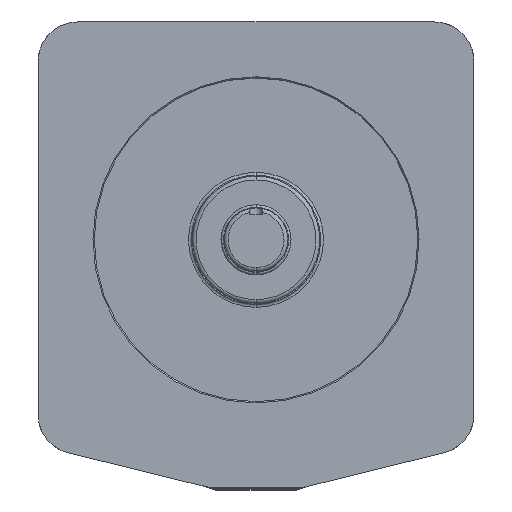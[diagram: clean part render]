
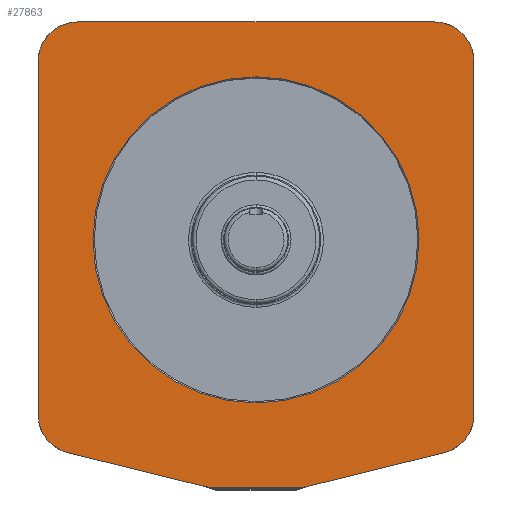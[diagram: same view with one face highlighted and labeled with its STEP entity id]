
A CAD part, top view. The second image highlights one B-rep face of the part: STEP entity #27863.
In plain terms, the highlighted planar face has unit normal (0, 0, 1).
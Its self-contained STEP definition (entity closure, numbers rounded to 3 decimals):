
#604 = DIRECTION ( 'NONE',  ( 1., 0., 0. ) ) ;
#870 = CARTESIAN_POINT ( 'NONE',  ( -143.149, 37.658, 387.5 ) ) ;
#1002 = CARTESIAN_POINT ( 'NONE',  ( 222., 140.013, 387.5 ) ) ;
#1104 = VERTEX_POINT ( 'NONE', #57212 ) ;
#1406 = AXIS2_PLACEMENT_3D ( 'NONE', #27403, #64700, #101989 ) ;
#1484 = LINE ( 'NONE', #38721, #101267 ) ;
#1571 = VERTEX_POINT ( 'NONE', #116203 ) ;
#2935 = ORIENTED_EDGE ( 'NONE', *, *, #76485, .F. ) ;
#3278 = EDGE_CURVE ( 'NONE', #62814, #61228, #61514, .T. ) ;
#5243 = EDGE_CURVE ( 'NONE', #1104, #109170, #82282, .T. ) ;
#6944 = DIRECTION ( 'NONE',  ( 0., 0., -1. ) ) ;
#7487 = EDGE_CURVE ( 'NONE', #90119, #11894, #8327, .T. ) ;
#8327 = CIRCLE ( 'NONE', #76635, 20. ) ;
#8734 = LINE ( 'NONE', #45978, #75824 ) ;
#9776 = PLANE ( 'NONE',  #29978 ) ;
#11894 = VERTEX_POINT ( 'NONE', #13361 ) ;
#13361 = CARTESIAN_POINT ( 'NONE',  ( -143.149, 37.658, 387.5 ) ) ;
#13926 = ORIENTED_EDGE ( 'NONE', *, *, #15740, .F. ) ;
#14230 = DIRECTION ( 'NONE',  ( 0., 0., -1. ) ) ;
#15064 = DIRECTION ( 'NONE',  ( -1., 0., 0. ) ) ;
#15740 = EDGE_CURVE ( 'NONE', #109170, #111738, #120401, .T. ) ;
#18420 = EDGE_CURVE ( 'NONE', #25281, #33264, #106840, .T. ) ;
#18525 = ORIENTED_EDGE ( 'NONE', *, *, #46902, .F. ) ;
#19664 = CARTESIAN_POINT ( 'NONE',  ( -86.084, 171.013, 387.5 ) ) ;
#20262 = EDGE_CURVE ( 'NONE', #22949, #52166, #54054, .T. ) ;
#20363 = VECTOR ( 'NONE', #35821, 1000. ) ;
#20961 = DIRECTION ( 'NONE',  ( 0., 1., 0. ) ) ;
#22797 = EDGE_CURVE ( 'NONE', #1571, #62814, #81815, .T. ) ;
#22949 = VERTEX_POINT ( 'NONE', #68376 ) ;
#24362 = ORIENTED_EDGE ( 'NONE', *, *, #7487, .F. ) ;
#25281 = VERTEX_POINT ( 'NONE', #103268 ) ;
#25850 = EDGE_LOOP ( 'NONE', ( #42689, #96738 ) ) ;
#25964 = AXIS2_PLACEMENT_3D ( 'NONE', #87070, #115163, #31393 ) ;
#26422 = ORIENTED_EDGE ( 'NONE', *, *, #3278, .F. ) ;
#26479 = ORIENTED_EDGE ( 'NONE', *, *, #18420, .F. ) ;
#27061 = CIRCLE ( 'NONE', #95429, 31. ) ;
#27149 = CARTESIAN_POINT ( 'NONE',  ( -143.149, -37.658, 387.5 ) ) ;
#27206 = EDGE_CURVE ( 'NONE', #52166, #22949, #78668, .T. ) ;
#27403 = CARTESIAN_POINT ( 'NONE',  ( 51., 0., 387.5 ) ) ;
#27452 = DIRECTION ( 'NONE',  ( 1., 0., 0. ) ) ;
#27863 = ADVANCED_FACE ( 'NONE', ( #56205, #93528 ), #9776, .T. ) ;
#29042 = ORIENTED_EDGE ( 'NONE', *, *, #22797, .F. ) ;
#29084 = AXIS2_PLACEMENT_3D ( 'NONE', #73924, #111228, #27452 ) ;
#29978 = AXIS2_PLACEMENT_3D ( 'NONE', #47009, #84319, #604 ) ;
#30162 = DIRECTION ( 'NONE',  ( 0., 0., -1. ) ) ;
#31014 = EDGE_LOOP ( 'NONE', ( #37243, #26479, #61890, #93889, #65878, #2935, #24362, #102674, #13926, #112826, #18525, #26422, #29042 ) ) ;
#31393 = DIRECTION ( 'NONE',  ( -1., 0., 0. ) ) ;
#31925 = CARTESIAN_POINT ( 'NONE',  ( -143.727, 32.887, 387.5 ) ) ;
#32215 = DIRECTION ( 'NONE',  ( 0., 0., -1. ) ) ;
#33036 = DIRECTION ( 'NONE',  ( -1., 0., 0. ) ) ;
#33264 = VERTEX_POINT ( 'NONE', #1002 ) ;
#34701 = EDGE_CURVE ( 'NONE', #43745, #120127, #84578, .T. ) ;
#35479 = VECTOR ( 'NONE', #20961, 1000. ) ;
#35821 = DIRECTION ( 'NONE',  ( -0.239, 0.971, 0. ) ) ;
#36059 = CARTESIAN_POINT ( 'NONE',  ( -86.09, -170.987, 387.5 ) ) ;
#36088 = VERTEX_POINT ( 'NONE', #73943 ) ;
#37243 = ORIENTED_EDGE ( 'NONE', *, *, #39614, .F. ) ;
#38117 = DIRECTION ( 'NONE',  ( 0.239, 0.971, 0. ) ) ;
#38721 = CARTESIAN_POINT ( 'NONE',  ( 222., 140.013, 387.5 ) ) ;
#39614 = EDGE_CURVE ( 'NONE', #33264, #1571, #1484, .T. ) ;
#39702 = EDGE_CURVE ( 'NONE', #120127, #36088, #27061, .T. ) ;
#42689 = ORIENTED_EDGE ( 'NONE', *, *, #20262, .F. ) ;
#43745 = VERTEX_POINT ( 'NONE', #56905 ) ;
#44188 = DIRECTION ( 'NONE',  ( 0., 1., 0. ) ) ;
#45978 = CARTESIAN_POINT ( 'NONE',  ( -143.149, 37.658, 387.5 ) ) ;
#46902 = EDGE_CURVE ( 'NONE', #61228, #1104, #48767, .T. ) ;
#47009 = CARTESIAN_POINT ( 'NONE',  ( 191., -139.987, 387.5 ) ) ;
#48137 = EDGE_CURVE ( 'NONE', #36088, #25281, #103423, .T. ) ;
#48767 = CIRCLE ( 'NONE', #117124, 31. ) ;
#49274 = CARTESIAN_POINT ( 'NONE',  ( -143.727, -32.887, 387.5 ) ) ;
#51483 = DIRECTION ( 'NONE',  ( 0., -1., 0. ) ) ;
#52166 = VERTEX_POINT ( 'NONE', #81215 ) ;
#54054 = CIRCLE ( 'NONE', #1406, 128. ) ;
#54092 = AXIS2_PLACEMENT_3D ( 'NONE', #90693, #6944, #44188 ) ;
#56205 = FACE_OUTER_BOUND ( 'NONE', #31014, .T. ) ;
#56905 = CARTESIAN_POINT ( 'NONE',  ( -143.149, 37.658, 387.5 ) ) ;
#56926 = DIRECTION ( 'NONE',  ( 1., 0., 0. ) ) ;
#57212 = CARTESIAN_POINT ( 'NONE',  ( -116.195, -147.382, 387.5 ) ) ;
#61228 = VERTEX_POINT ( 'NONE', #36059 ) ;
#61514 = LINE ( 'NONE', #98837, #64901 ) ;
#61890 = ORIENTED_EDGE ( 'NONE', *, *, #48137, .F. ) ;
#62814 = VERTEX_POINT ( 'NONE', #68872 ) ;
#62969 = VECTOR ( 'NONE', #56926, 1000. ) ;
#64700 = DIRECTION ( 'NONE',  ( 0., 0., 1. ) ) ;
#64901 = VECTOR ( 'NONE', #15064, 1000. ) ;
#65878 = ORIENTED_EDGE ( 'NONE', *, *, #34701, .F. ) ;
#67408 = LINE ( 'NONE', #104706, #35479 ) ;
#67458 = DIRECTION ( 'NONE',  ( -0.971, 0.239, 0. ) ) ;
#67728 = AXIS2_PLACEMENT_3D ( 'NONE', #115959, #32215, #69498 ) ;
#68376 = CARTESIAN_POINT ( 'NONE',  ( 179., 0., 387.5 ) ) ;
#68872 = CARTESIAN_POINT ( 'NONE',  ( 191., -170.987, 387.5 ) ) ;
#69498 = DIRECTION ( 'NONE',  ( -0.971, -0.239, 0. ) ) ;
#73924 = CARTESIAN_POINT ( 'NONE',  ( 191., -139.987, 387.5 ) ) ;
#73943 = CARTESIAN_POINT ( 'NONE',  ( -86.084, 171.013, 387.5 ) ) ;
#75824 = VECTOR ( 'NONE', #83301, 1000. ) ;
#75999 = DIRECTION ( 'NONE',  ( 0., -1., 0. ) ) ;
#76485 = EDGE_CURVE ( 'NONE', #11894, #43745, #8734, .T. ) ;
#76635 = AXIS2_PLACEMENT_3D ( 'NONE', #79509, #116788, #33036 ) ;
#78668 = CIRCLE ( 'NONE', #25964, 128. ) ;
#79509 = CARTESIAN_POINT ( 'NONE',  ( -123.727, 32.887, 387.5 ) ) ;
#81215 = CARTESIAN_POINT ( 'NONE',  ( -77., 0., 387.5 ) ) ;
#81815 = CIRCLE ( 'NONE', #29084, 31. ) ;
#82282 = LINE ( 'NONE', #119551, #20363 ) ;
#83301 = DIRECTION ( 'NONE',  ( 0.239, 0.971, 0. ) ) ;
#84319 = DIRECTION ( 'NONE',  ( 0., 0., 1. ) ) ;
#84578 = LINE ( 'NONE', #870, #96478 ) ;
#86532 = CARTESIAN_POINT ( 'NONE',  ( -116.189, 147.409, 387.5 ) ) ;
#87070 = CARTESIAN_POINT ( 'NONE',  ( 51., 0., 387.5 ) ) ;
#89407 = EDGE_CURVE ( 'NONE', #111738, #90119, #67408, .T. ) ;
#90119 = VERTEX_POINT ( 'NONE', #31925 ) ;
#90693 = CARTESIAN_POINT ( 'NONE',  ( 191., 140.013, 387.5 ) ) ;
#93528 = FACE_BOUND ( 'NONE', #25850, .T. ) ;
#93889 = ORIENTED_EDGE ( 'NONE', *, *, #39702, .F. ) ;
#95429 = AXIS2_PLACEMENT_3D ( 'NONE', #113919, #30162, #67458 ) ;
#96478 = VECTOR ( 'NONE', #38117, 1000. ) ;
#96738 = ORIENTED_EDGE ( 'NONE', *, *, #27206, .F. ) ;
#97994 = CARTESIAN_POINT ( 'NONE',  ( -86.09, -139.987, 387.5 ) ) ;
#98837 = CARTESIAN_POINT ( 'NONE',  ( 191., -170.987, 387.5 ) ) ;
#101267 = VECTOR ( 'NONE', #75999, 1000. ) ;
#101989 = DIRECTION ( 'NONE',  ( -1., 0., 0. ) ) ;
#102674 = ORIENTED_EDGE ( 'NONE', *, *, #89407, .F. ) ;
#103268 = CARTESIAN_POINT ( 'NONE',  ( 191., 171.013, 387.5 ) ) ;
#103423 = LINE ( 'NONE', #19664, #62969 ) ;
#104706 = CARTESIAN_POINT ( 'NONE',  ( -143.727, -32.887, 387.5 ) ) ;
#106840 = CIRCLE ( 'NONE', #54092, 31. ) ;
#109170 = VERTEX_POINT ( 'NONE', #27149 ) ;
#111228 = DIRECTION ( 'NONE',  ( 0., 0., -1. ) ) ;
#111738 = VERTEX_POINT ( 'NONE', #49274 ) ;
#112826 = ORIENTED_EDGE ( 'NONE', *, *, #5243, .F. ) ;
#113919 = CARTESIAN_POINT ( 'NONE',  ( -86.084, 140.013, 387.5 ) ) ;
#115163 = DIRECTION ( 'NONE',  ( 0., 0., 1. ) ) ;
#115959 = CARTESIAN_POINT ( 'NONE',  ( -123.727, -32.887, 387.5 ) ) ;
#116203 = CARTESIAN_POINT ( 'NONE',  ( 222., -139.987, 387.5 ) ) ;
#116788 = DIRECTION ( 'NONE',  ( 0., 0., -1. ) ) ;
#117124 = AXIS2_PLACEMENT_3D ( 'NONE', #97994, #14230, #51483 ) ;
#119551 = CARTESIAN_POINT ( 'NONE',  ( -116.195, -147.382, 387.5 ) ) ;
#120127 = VERTEX_POINT ( 'NONE', #86532 ) ;
#120401 = CIRCLE ( 'NONE', #67728, 20. ) ;
